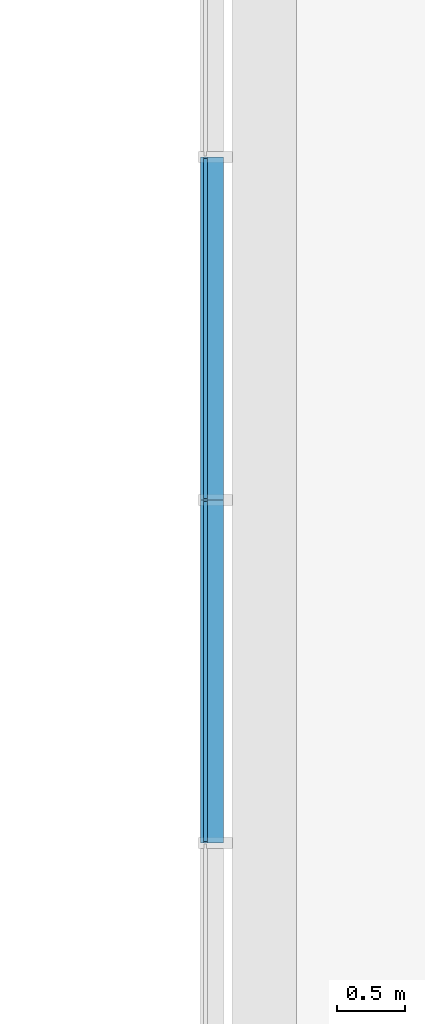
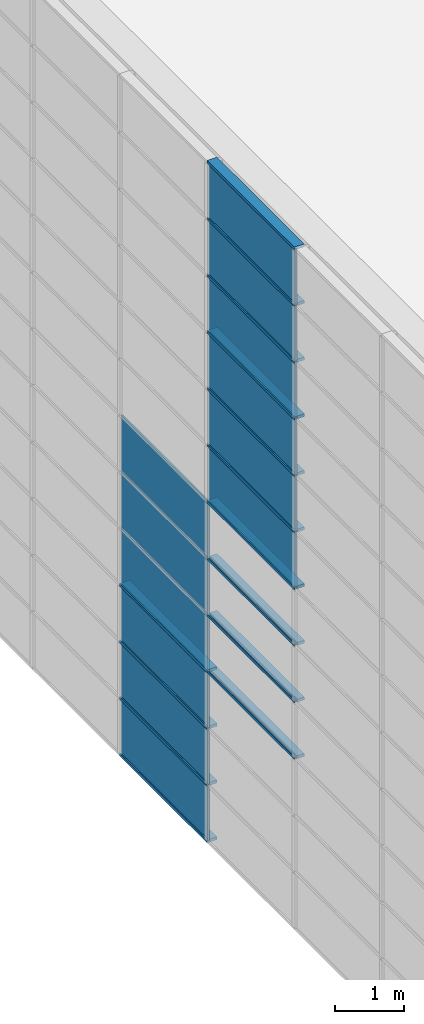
# One storey, part 14 of 105: 29 building element parts, 4 elements without a shape of their own.
"""IFC4 building model written with IfcOpenShell, lengths in millimetres."""

from ifc_helpers import new_model, entity, si_unit, converted_unit, derived_unit, direction, frame, origin_with_axes, place, context, subcontext, project, spatial, triangles, material, element, aggregate, save


model = new_model("IFC4")

# Units and contexts
model_context = context("Model", 3, precision=1e-05, world=origin_with_axes(), true_north=direction((0.0, 1.0)))
body_context = subcontext(model_context, "Body", "Model", "MODEL_VIEW")
ifc_project = project(units=[si_unit("LENGTHUNIT", "METRE", prefix="MILLI"), si_unit("AREAUNIT", "SQUARE_METRE"), si_unit("VOLUMEUNIT", "CUBIC_METRE"), converted_unit("PLANEANGLEUNIT", "DEGREE", entity("IfcLengthMeasure", 0.017453), si_unit("PLANEANGLEUNIT", "RADIAN"), dimensions=[0, 0, 0, 0, 0, 0, 0]), si_unit("SOLIDANGLEUNIT", "STERADIAN"), si_unit("MASSUNIT", "GRAM"), si_unit("TIMEUNIT", "SECOND"), si_unit("THERMODYNAMICTEMPERATUREUNIT", "DEGREE_CELSIUS"), si_unit("LUMINOUSINTENSITYUNIT", "LUMEN"), si_unit("POWERUNIT", "WATT"), derived_unit("THERMALTRANSMITTANCEUNIT", [(si_unit("POWERUNIT", "WATT"), 1), (si_unit("THERMODYNAMICTEMPERATUREUNIT", "KELVIN"), -1), (si_unit("AREAUNIT", "SQUARE_METRE"), -1)])], contexts=[model_context])

# Site, building, storey
site_placement = place(None, origin_with_axes())
site = spatial("IfcSite", under=ifc_project, at=site_placement, Name="Default Site", CompositionType="ELEMENT")
building_placement = place(site_placement, origin_with_axes())
building = spatial("IfcBuilding", under=site, at=building_placement, Name="Default Building", CompositionType="ELEMENT")
storey_placement = place(building_placement, origin_with_axes())
storey = spatial("IfcBuildingStorey", under=building, at=storey_placement, Name="OG - Story", CompositionType="ELEMENT", Elevation=0.0)

# Curtain wall, building element parts
curtain_wall_1_placement = place(storey_placement, origin_with_axes())
curtain_wall_1 = element("IfcCurtainWall", 1, at=curtain_wall_1_placement, inside=storey, Name="Fassade-003", PredefinedType="NOTDEFINED")
ifc_material_1 = material(Name="Normalglas")
building_element_part_1_placement = place(curtain_wall_1_placement, frame((31551.391327, -51326.104944, 0.0), z_axis=(0.0, 0.0, 1.0), x_axis=(1.0, 0.0, 0.0)))
building_element_part_1 = element("IfcBuildingElementPart", 2, at=building_element_part_1_placement, material=ifc_material_1, Name="Normalglas", PredefinedType="NOTDEFINED", context=body_context, shape_type="Tessellation", body=[
    triangles([(15.0, 23990.0, 995.0), (-14.999, 23990.0, 995.0), (-14.999, 21483.684, 995.0), (15.0, 21483.684, 995.0), (15.0, 23990.0, 5.0), (-14.999, 23990.0, 5.0), (-14.999, 21483.684, 5.0), (15.0, 21483.684, 5.0)], [[1, 2, 3], [1, 3, 4], [5, 6, 2], [5, 2, 1], [2, 6, 7], [2, 7, 3], [4, 3, 7], [4, 7, 8], [1, 4, 8], [1, 8, 5], [8, 7, 6], [8, 6, 5]], closed=False),
])
building_element_part_2_placement = place(curtain_wall_1_placement, frame((31551.391327, -51326.104944, 0.0), z_axis=(0.0, 0.0, 1.0), x_axis=(1.0, 0.0, 0.0)))
building_element_part_2 = element("IfcBuildingElementPart", 3, at=building_element_part_2_placement, material=ifc_material_1, Name="Normalglas", PredefinedType="NOTDEFINED", context=body_context, shape_type="Tessellation", body=[
    triangles([(15.0, 23990.0, 1995.0), (-14.999, 23990.0, 1995.0), (-14.999, 21483.684, 1995.0), (15.0, 21483.684, 1995.0), (15.0, 23990.0, 1005.0), (-14.999, 23990.0, 1005.0), (-14.999, 21483.684, 1005.0), (15.0, 21483.684, 1005.0)], [[1, 2, 3], [1, 3, 4], [5, 6, 2], [5, 2, 1], [2, 6, 7], [2, 7, 3], [4, 3, 7], [4, 7, 8], [1, 4, 8], [1, 8, 5], [8, 7, 6], [8, 6, 5]], closed=False),
])
building_element_part_3_placement = place(curtain_wall_1_placement, frame((31551.391327, -51326.104944, 0.0), z_axis=(0.0, 0.0, 1.0), x_axis=(1.0, 0.0, 0.0)))
building_element_part_3 = element("IfcBuildingElementPart", 4, at=building_element_part_3_placement, material=ifc_material_1, Name="Normalglas", PredefinedType="NOTDEFINED", context=body_context, shape_type="Tessellation", body=[
    triangles([(15.0, 23990.0, 2995.0), (-14.999, 23990.0, 2995.0), (-14.999, 21483.684, 2995.0), (15.0, 21483.684, 2995.0), (15.0, 23990.0, 2005.0), (-14.999, 23990.0, 2005.0), (-14.999, 21483.684, 2005.0), (15.0, 21483.684, 2005.0)], [[1, 2, 3], [1, 3, 4], [5, 6, 2], [5, 2, 1], [2, 6, 7], [2, 7, 3], [4, 3, 7], [4, 7, 8], [1, 4, 8], [1, 8, 5], [8, 7, 6], [8, 6, 5]], closed=False),
])
ifc_material_2 = material(Name="Blech")
building_element_part_4_placement = place(curtain_wall_1_placement, frame((31551.391327, -51326.104944, 0.0), z_axis=(0.0, 0.0, 1.0), x_axis=(1.0, 0.0, 0.0)))
building_element_part_4 = element("IfcBuildingElementPart", 5, at=building_element_part_4_placement, material=ifc_material_2, Name="Blech", PredefinedType="NOTDEFINED", context=body_context, shape_type="Tessellation", body=[
    triangles([(15.0, 24000.0, 25.0), (133.0, 24000.0, 25.0), (15.0, 24000.0, 5.0), (133.0, 24000.0, -24.999), (-14.999, 24000.0, 5.0), (-34.999, 24000.0, -24.999), (-34.999, 24000.0, 25.0), (-14.999, 24000.0, 25.0), (15.0, 21473.684, 5.0), (15.0, 21473.684, 25.0), (133.0, 21473.684, 25.0), (133.0, 21473.684, -24.999), (-34.999, 21473.684, -24.999), (-34.999, 21473.684, 25.0), (-14.999, 21473.684, 25.0), (-14.999, 21473.684, 5.0)], [[1, 2, 3], [3, 2, 4], [3, 4, 5], [5, 4, 6], [5, 6, 7], [5, 7, 8], [3, 9, 10], [3, 10, 1], [10, 11, 2], [10, 2, 1], [11, 12, 4], [11, 4, 2], [12, 13, 6], [12, 6, 4], [13, 14, 7], [13, 7, 6], [8, 7, 14], [8, 14, 15], [15, 16, 5], [15, 5, 8], [5, 16, 9], [5, 9, 3], [16, 9, 12], [16, 12, 13], [16, 13, 14], [16, 14, 15], [11, 12, 9], [11, 9, 10]], closed=False),
])
building_element_part_5_placement = place(curtain_wall_1_placement, frame((31551.391327, -51326.104944, 0.0), z_axis=(0.0, 0.0, 1.0), x_axis=(1.0, 0.0, 0.0)))
building_element_part_5 = element("IfcBuildingElementPart", 6, at=building_element_part_5_placement, material=ifc_material_2, Name="Blech", PredefinedType="NOTDEFINED", context=body_context, shape_type="Tessellation", body=[
    triangles([(-14.999, 24000.0, 1025.0), (-34.999, 24000.0, 1025.0), (-14.999, 24000.0, 1005.0), (-14.999, 24000.0, 995.0), (15.0, 24000.0, 1005.0), (133.0, 24000.0, 1025.0), (15.0, 24000.0, 1025.0), (-34.999, 24000.0, 975.0), (-14.999, 24000.0, 975.0), (15.0, 24000.0, 995.0), (15.0, 24000.0, 975.0), (133.0, 24000.0, 975.0), (15.0, 21473.684, 995.0), (-14.999, 21473.684, 995.0), (-14.999, 21473.684, 975.0), (-34.999, 21473.684, 975.0), (-34.999, 21473.684, 1025.0), (-14.999, 21473.684, 1025.0), (-14.999, 21473.684, 1005.0), (15.0, 21473.684, 1005.0), (15.0, 21473.684, 1025.0), (133.0, 21473.684, 1025.0), (133.0, 21473.684, 975.0), (15.0, 21473.684, 975.0)], [[1, 2, 3], [3, 2, 4], [3, 4, 5], [5, 4, 6], [5, 6, 7], [8, 9, 4], [8, 4, 2], [6, 4, 10], [6, 10, 11], [6, 11, 12], [10, 13, 14], [10, 14, 4], [4, 14, 15], [4, 15, 9], [15, 16, 8], [15, 8, 9], [8, 16, 17], [8, 17, 2], [18, 1, 2], [18, 2, 17], [1, 18, 19], [1, 19, 3], [5, 3, 19], [5, 19, 20], [7, 5, 20], [7, 20, 21], [7, 21, 22], [7, 22, 6], [6, 22, 23], [6, 23, 12], [11, 12, 23], [11, 23, 24], [11, 24, 13], [11, 13, 10], [21, 22, 20], [20, 22, 13], [20, 13, 19], [19, 13, 14], [19, 14, 17], [17, 14, 15], [17, 15, 16], [23, 24, 13], [23, 13, 22], [19, 17, 18]], closed=False),
])
building_element_part_6_placement = place(curtain_wall_1_placement, frame((31551.391327, -51326.104944, 0.0), z_axis=(0.0, 0.0, 1.0), x_axis=(1.0, 0.0, 0.0)))
building_element_part_6 = element("IfcBuildingElementPart", 7, at=building_element_part_6_placement, material=ifc_material_2, Name="Blech", PredefinedType="NOTDEFINED", context=body_context, shape_type="Tessellation", body=[
    triangles([(-14.999, 24000.0, 2025.0), (-34.999, 24000.0, 2025.0), (-14.999, 24000.0, 2005.0), (-14.999, 24000.0, 1995.0), (15.0, 24000.0, 2005.0), (133.0, 24000.0, 2025.0), (15.0, 24000.0, 2025.0), (-34.999, 24000.0, 1975.0), (-14.999, 24000.0, 1975.0), (15.0, 24000.0, 1995.0), (15.0, 24000.0, 1975.0), (133.0, 24000.0, 1975.0), (15.0, 21473.684, 1995.0), (-14.999, 21473.684, 1995.0), (-14.999, 21473.684, 1975.0), (-34.999, 21473.684, 1975.0), (-34.999, 21473.684, 2025.0), (-14.999, 21473.684, 2025.0), (-14.999, 21473.684, 2005.0), (15.0, 21473.684, 2005.0), (15.0, 21473.684, 2025.0), (133.0, 21473.684, 2025.0), (133.0, 21473.684, 1975.0), (15.0, 21473.684, 1975.0)], [[1, 2, 3], [3, 2, 4], [3, 4, 5], [5, 4, 6], [5, 6, 7], [8, 9, 4], [8, 4, 2], [6, 4, 10], [6, 10, 11], [6, 11, 12], [10, 13, 14], [10, 14, 4], [4, 14, 15], [4, 15, 9], [15, 16, 8], [15, 8, 9], [8, 16, 17], [8, 17, 2], [18, 1, 2], [18, 2, 17], [1, 18, 19], [1, 19, 3], [5, 3, 19], [5, 19, 20], [7, 5, 20], [7, 20, 21], [7, 21, 22], [7, 22, 6], [6, 22, 23], [6, 23, 12], [11, 12, 23], [11, 23, 24], [11, 24, 13], [11, 13, 10], [21, 22, 20], [20, 22, 13], [20, 13, 19], [19, 13, 14], [19, 14, 17], [17, 14, 15], [17, 15, 16], [23, 24, 13], [23, 13, 22], [19, 17, 18]], closed=False),
])
building_element_part_7_placement = place(curtain_wall_1_placement, frame((31551.391327, -51326.104944, 0.0), z_axis=(0.0, 0.0, 1.0), x_axis=(1.0, 0.0, 0.0)))
building_element_part_7 = element("IfcBuildingElementPart", 8, at=building_element_part_7_placement, material=ifc_material_2, Name="Blech", PredefinedType="NOTDEFINED", context=body_context, shape_type="Tessellation", body=[
    triangles([(-14.999, 24000.0, 2995.0), (15.0, 24000.0, 2995.0), (133.0, 24000.0, 3025.0), (-34.999, 24000.0, 3025.0), (-34.999, 24000.0, 2975.0), (-14.999, 24000.0, 2975.0), (15.0, 24000.0, 2975.0), (133.0, 24000.0, 2975.0), (15.0, 21473.684, 2995.0), (-14.999, 21473.684, 2995.0), (-14.999, 21473.684, 2975.0), (-34.999, 21473.684, 2975.0), (-34.999, 21473.684, 3025.0), (133.0, 21473.684, 3025.0), (133.0, 21473.684, 2975.0), (15.0, 21473.684, 2975.0)], [[1, 2, 3], [1, 3, 4], [1, 4, 5], [1, 5, 6], [7, 8, 3], [7, 3, 2], [1, 2, 9], [1, 9, 10], [11, 6, 1], [11, 1, 10], [6, 11, 12], [6, 12, 5], [13, 4, 5], [13, 5, 12], [14, 3, 4], [14, 4, 13], [15, 8, 3], [15, 3, 14], [16, 7, 8], [16, 8, 15], [2, 7, 16], [2, 16, 9], [10, 9, 14], [10, 14, 13], [10, 13, 12], [10, 12, 11], [16, 15, 14], [16, 14, 9]], closed=False),
])
aggregate(curtain_wall_1, [building_element_part_1, building_element_part_2, building_element_part_3, building_element_part_4, building_element_part_5, building_element_part_6, building_element_part_7])

curtain_wall_2_placement = place(storey_placement, origin_with_axes())
curtain_wall_2 = element("IfcCurtainWall", 9, at=curtain_wall_2_placement, inside=storey, Name="Fassade-003", PredefinedType="NOTDEFINED")
building_element_part_8_placement = place(curtain_wall_2_placement, frame((31551.391327, -51326.104944, 3000.0), z_axis=(0.0, 0.0, 1.0), x_axis=(1.0, 0.0, 0.0)))
building_element_part_8 = element("IfcBuildingElementPart", 10, at=building_element_part_8_placement, material=ifc_material_1, Name="Normalglas", PredefinedType="NOTDEFINED", context=body_context, shape_type="Tessellation", body=[
    triangles([(15.0, 23990.0, 995.0), (-14.999, 23990.0, 995.0), (-14.999, 21483.684, 995.0), (15.0, 21483.684, 995.0), (15.0, 23990.0, 5.0), (-14.999, 23990.0, 5.0), (-14.999, 21483.684, 5.0), (15.0, 21483.684, 5.0)], [[1, 2, 3], [1, 3, 4], [5, 6, 2], [5, 2, 1], [2, 6, 7], [2, 7, 3], [4, 3, 7], [4, 7, 8], [1, 4, 8], [1, 8, 5], [8, 7, 6], [8, 6, 5]], closed=False),
])
building_element_part_9_placement = place(curtain_wall_2_placement, frame((31551.391327, -51326.104944, 3000.0), z_axis=(0.0, 0.0, 1.0), x_axis=(1.0, 0.0, 0.0)))
building_element_part_9 = element("IfcBuildingElementPart", 11, at=building_element_part_9_placement, material=ifc_material_1, Name="Normalglas", PredefinedType="NOTDEFINED", context=body_context, shape_type="Tessellation", body=[
    triangles([(15.0, 23990.0, 1995.0), (-14.999, 23990.0, 1995.0), (-14.999, 21483.684, 1995.0), (15.0, 21483.684, 1995.0), (15.0, 23990.0, 1005.0), (-14.999, 23990.0, 1005.0), (-14.999, 21483.684, 1005.0), (15.0, 21483.684, 1005.0)], [[1, 2, 3], [1, 3, 4], [5, 6, 2], [5, 2, 1], [2, 6, 7], [2, 7, 3], [4, 3, 7], [4, 7, 8], [1, 4, 8], [1, 8, 5], [8, 7, 6], [8, 6, 5]], closed=False),
])
building_element_part_10_placement = place(curtain_wall_2_placement, frame((31551.391327, -51326.104944, 3000.0), z_axis=(0.0, 0.0, 1.0), x_axis=(1.0, 0.0, 0.0)))
building_element_part_10 = element("IfcBuildingElementPart", 12, at=building_element_part_10_placement, material=ifc_material_1, Name="Normalglas", PredefinedType="NOTDEFINED", context=body_context, shape_type="Tessellation", body=[
    triangles([(15.0, 23990.0, 2995.0), (-14.999, 23990.0, 2995.0), (-14.999, 21483.684, 2995.0), (15.0, 21483.684, 2995.0), (15.0, 23990.0, 2005.0), (-14.999, 23990.0, 2005.0), (-14.999, 21483.684, 2005.0), (15.0, 21483.684, 2005.0)], [[1, 2, 3], [1, 3, 4], [5, 6, 2], [5, 2, 1], [2, 6, 7], [2, 7, 3], [4, 3, 7], [4, 7, 8], [1, 4, 8], [1, 8, 5], [8, 7, 6], [8, 6, 5]], closed=False),
])
building_element_part_11_placement = place(curtain_wall_2_placement, frame((31551.391327, -51326.104944, 3000.0), z_axis=(0.0, 0.0, 1.0), x_axis=(1.0, 0.0, 0.0)))
building_element_part_11 = element("IfcBuildingElementPart", 13, at=building_element_part_11_placement, material=ifc_material_2, Name="Blech", PredefinedType="NOTDEFINED", context=body_context, shape_type="Tessellation", body=[
    triangles([(15.0, 21473.684, 25.0), (133.0, 21473.684, 25.0), (15.0, 21473.684, 5.0), (133.0, 21473.684, -24.999), (-14.999, 21473.684, 5.0), (-34.999, 21473.684, -24.999), (-34.999, 21473.684, 25.0), (-14.999, 21473.684, 25.0), (15.0, 18947.368, 5.0), (15.0, 18947.368, 25.0), (133.0, 18947.368, 25.0), (133.0, 18947.368, -24.999), (-34.999, 18947.368, -24.999), (-34.999, 18947.368, 25.0), (-14.999, 18947.368, 25.0), (-14.999, 18947.368, 5.0)], [[1, 2, 3], [3, 2, 4], [3, 4, 5], [5, 4, 6], [5, 6, 7], [5, 7, 8], [3, 9, 10], [3, 10, 1], [10, 11, 2], [10, 2, 1], [11, 12, 4], [11, 4, 2], [12, 13, 6], [12, 6, 4], [13, 14, 7], [13, 7, 6], [8, 7, 14], [8, 14, 15], [15, 16, 5], [15, 5, 8], [5, 16, 9], [5, 9, 3], [16, 9, 12], [16, 12, 13], [16, 13, 14], [16, 14, 15], [11, 12, 9], [11, 9, 10]], closed=False),
])
building_element_part_12_placement = place(curtain_wall_2_placement, frame((31551.391327, -51326.104944, 3000.0), z_axis=(0.0, 0.0, 1.0), x_axis=(1.0, 0.0, 0.0)))
building_element_part_12 = element("IfcBuildingElementPart", 14, at=building_element_part_12_placement, material=ifc_material_2, Name="Blech", PredefinedType="NOTDEFINED", context=body_context, shape_type="Tessellation", body=[
    triangles([(15.0, 24000.0, 25.0), (133.0, 24000.0, 25.0), (15.0, 24000.0, 5.0), (133.0, 24000.0, -24.999), (-14.999, 24000.0, 5.0), (-34.999, 24000.0, -24.999), (-34.999, 24000.0, 25.0), (-14.999, 24000.0, 25.0), (15.0, 21473.684, 5.0), (15.0, 21473.684, 25.0), (133.0, 21473.684, 25.0), (133.0, 21473.684, -24.999), (-34.999, 21473.684, -24.999), (-34.999, 21473.684, 25.0), (-14.999, 21473.684, 25.0), (-14.999, 21473.684, 5.0)], [[1, 2, 3], [3, 2, 4], [3, 4, 5], [5, 4, 6], [5, 6, 7], [5, 7, 8], [3, 9, 10], [3, 10, 1], [10, 11, 2], [10, 2, 1], [11, 12, 4], [11, 4, 2], [12, 13, 6], [12, 6, 4], [13, 14, 7], [13, 7, 6], [8, 7, 14], [8, 14, 15], [15, 16, 5], [15, 5, 8], [5, 16, 9], [5, 9, 3], [16, 9, 12], [16, 12, 13], [16, 13, 14], [16, 14, 15], [11, 12, 9], [11, 9, 10]], closed=False),
])
building_element_part_13_placement = place(curtain_wall_2_placement, frame((31551.391327, -51326.104944, 3000.0), z_axis=(0.0, 0.0, 1.0), x_axis=(1.0, 0.0, 0.0)))
building_element_part_13 = element("IfcBuildingElementPart", 15, at=building_element_part_13_placement, material=ifc_material_2, Name="Blech", PredefinedType="NOTDEFINED", context=body_context, shape_type="Tessellation", body=[
    triangles([(-14.999, 21473.684, 1025.0), (-34.999, 21473.684, 1025.0), (-14.999, 21473.684, 1005.0), (-14.999, 21473.684, 995.0), (15.0, 21473.684, 1005.0), (133.0, 21473.684, 1025.0), (15.0, 21473.684, 1025.0), (-34.999, 21473.684, 975.0), (-14.999, 21473.684, 975.0), (15.0, 21473.684, 995.0), (15.0, 21473.684, 975.0), (133.0, 21473.684, 975.0), (15.0, 18947.368, 995.0), (-14.999, 18947.368, 995.0), (-14.999, 18947.368, 975.0), (-34.999, 18947.368, 975.0), (-34.999, 18947.368, 1025.0), (-14.999, 18947.368, 1025.0), (-14.999, 18947.368, 1005.0), (15.0, 18947.368, 1005.0), (15.0, 18947.368, 1025.0), (133.0, 18947.368, 1025.0), (133.0, 18947.368, 975.0), (15.0, 18947.368, 975.0)], [[1, 2, 3], [3, 2, 4], [3, 4, 5], [5, 4, 6], [5, 6, 7], [8, 9, 4], [8, 4, 2], [6, 4, 10], [6, 10, 11], [6, 11, 12], [10, 13, 14], [10, 14, 4], [4, 14, 15], [4, 15, 9], [15, 16, 8], [15, 8, 9], [8, 16, 17], [8, 17, 2], [18, 1, 2], [18, 2, 17], [1, 18, 19], [1, 19, 3], [5, 3, 19], [5, 19, 20], [7, 5, 20], [7, 20, 21], [7, 21, 22], [7, 22, 6], [6, 22, 23], [6, 23, 12], [11, 12, 23], [11, 23, 24], [11, 24, 13], [11, 13, 10], [21, 22, 20], [20, 22, 13], [20, 13, 19], [19, 13, 14], [19, 14, 17], [17, 14, 15], [17, 15, 16], [23, 24, 13], [23, 13, 22], [19, 17, 18]], closed=False),
])
building_element_part_14_placement = place(curtain_wall_2_placement, frame((31551.391327, -51326.104944, 3000.0), z_axis=(0.0, 0.0, 1.0), x_axis=(1.0, 0.0, 0.0)))
building_element_part_14 = element("IfcBuildingElementPart", 16, at=building_element_part_14_placement, material=ifc_material_2, Name="Blech", PredefinedType="NOTDEFINED", context=body_context, shape_type="Tessellation", body=[
    triangles([(-14.999, 21473.684, 2025.0), (-34.999, 21473.684, 2025.0), (-14.999, 21473.684, 2005.0), (-14.999, 21473.684, 1995.0), (15.0, 21473.684, 2005.0), (133.0, 21473.684, 2025.0), (15.0, 21473.684, 2025.0), (-34.999, 21473.684, 1975.0), (-14.999, 21473.684, 1975.0), (15.0, 21473.684, 1995.0), (15.0, 21473.684, 1975.0), (133.0, 21473.684, 1975.0), (15.0, 18947.368, 1995.0), (-14.999, 18947.368, 1995.0), (-14.999, 18947.368, 1975.0), (-34.999, 18947.368, 1975.0), (-34.999, 18947.368, 2025.0), (-14.999, 18947.368, 2025.0), (-14.999, 18947.368, 2005.0), (15.0, 18947.368, 2005.0), (15.0, 18947.368, 2025.0), (133.0, 18947.368, 2025.0), (133.0, 18947.368, 1975.0), (15.0, 18947.368, 1975.0)], [[1, 2, 3], [3, 2, 4], [3, 4, 5], [5, 4, 6], [5, 6, 7], [8, 9, 4], [8, 4, 2], [6, 4, 10], [6, 10, 11], [6, 11, 12], [10, 13, 14], [10, 14, 4], [4, 14, 15], [4, 15, 9], [15, 16, 8], [15, 8, 9], [8, 16, 17], [8, 17, 2], [18, 1, 2], [18, 2, 17], [1, 18, 19], [1, 19, 3], [5, 3, 19], [5, 19, 20], [7, 5, 20], [7, 20, 21], [7, 21, 22], [7, 22, 6], [6, 22, 23], [6, 23, 12], [11, 12, 23], [11, 23, 24], [11, 24, 13], [11, 13, 10], [21, 22, 20], [20, 22, 13], [20, 13, 19], [19, 13, 14], [19, 14, 17], [17, 14, 15], [17, 15, 16], [23, 24, 13], [23, 13, 22], [19, 17, 18]], closed=False),
])
building_element_part_15_placement = place(curtain_wall_2_placement, frame((31551.391327, -51326.104944, 3000.0), z_axis=(0.0, 0.0, 1.0), x_axis=(1.0, 0.0, 0.0)))
building_element_part_15 = element("IfcBuildingElementPart", 17, at=building_element_part_15_placement, material=ifc_material_2, Name="Blech", PredefinedType="NOTDEFINED", context=body_context, shape_type="Tessellation", body=[
    triangles([(-14.999, 21473.684, 2995.0), (15.0, 21473.684, 2995.0), (133.0, 21473.684, 3025.0), (-34.999, 21473.684, 3025.0), (-34.999, 21473.684, 2975.0), (-14.999, 21473.684, 2975.0), (15.0, 21473.684, 2975.0), (133.0, 21473.684, 2975.0), (15.0, 18947.368, 2995.0), (-14.999, 18947.368, 2995.0), (-14.999, 18947.368, 2975.0), (-34.999, 18947.368, 2975.0), (-34.999, 18947.368, 3025.0), (133.0, 18947.368, 3025.0), (133.0, 18947.368, 2975.0), (15.0, 18947.368, 2975.0)], [[1, 2, 3], [1, 3, 4], [1, 4, 5], [1, 5, 6], [7, 8, 3], [7, 3, 2], [1, 2, 9], [1, 9, 10], [11, 6, 1], [11, 1, 10], [6, 11, 12], [6, 12, 5], [13, 4, 5], [13, 5, 12], [14, 3, 4], [14, 4, 13], [15, 8, 3], [15, 3, 14], [16, 7, 8], [16, 8, 15], [2, 7, 16], [2, 16, 9], [10, 9, 14], [10, 14, 13], [10, 13, 12], [10, 12, 11], [16, 15, 14], [16, 14, 9]], closed=False),
])
aggregate(curtain_wall_2, [building_element_part_8, building_element_part_9, building_element_part_10, building_element_part_11, building_element_part_12, building_element_part_13, building_element_part_14, building_element_part_15])

curtain_wall_3_placement = place(storey_placement, origin_with_axes())
curtain_wall_3 = element("IfcCurtainWall", 18, at=curtain_wall_3_placement, inside=storey, Name="Fassade-003", PredefinedType="NOTDEFINED")
building_element_part_16_placement = place(curtain_wall_3_placement, frame((31551.391327, -51326.104944, 6000.0), z_axis=(0.0, 0.0, 1.0), x_axis=(1.0, 0.0, 0.0)))
building_element_part_16 = element("IfcBuildingElementPart", 19, at=building_element_part_16_placement, material=ifc_material_1, Name="Normalglas", PredefinedType="NOTDEFINED", context=body_context, shape_type="Tessellation", body=[
    triangles([(15.0, 21463.684, 995.0), (-14.999, 21463.684, 995.0), (-14.999, 18957.368, 995.0), (15.0, 18957.368, 995.0), (15.0, 21463.684, 5.0), (-14.999, 21463.684, 5.0), (-14.999, 18957.368, 5.0), (15.0, 18957.368, 5.0)], [[1, 2, 3], [1, 3, 4], [5, 6, 2], [5, 2, 1], [2, 6, 7], [2, 7, 3], [4, 3, 7], [4, 7, 8], [1, 4, 8], [1, 8, 5], [8, 7, 6], [8, 6, 5]], closed=False),
])
building_element_part_17_placement = place(curtain_wall_3_placement, frame((31551.391327, -51326.104944, 6000.0), z_axis=(0.0, 0.0, 1.0), x_axis=(1.0, 0.0, 0.0)))
building_element_part_17 = element("IfcBuildingElementPart", 20, at=building_element_part_17_placement, material=ifc_material_1, Name="Normalglas", PredefinedType="NOTDEFINED", context=body_context, shape_type="Tessellation", body=[
    triangles([(15.0, 21463.684, 1995.0), (-14.999, 21463.684, 1995.0), (-14.999, 18957.368, 1995.0), (15.0, 18957.368, 1995.0), (15.0, 21463.684, 1005.0), (-14.999, 21463.684, 1005.0), (-14.999, 18957.368, 1005.0), (15.0, 18957.368, 1005.0)], [[1, 2, 3], [1, 3, 4], [5, 6, 2], [5, 2, 1], [2, 6, 7], [2, 7, 3], [4, 3, 7], [4, 7, 8], [1, 4, 8], [1, 8, 5], [8, 7, 6], [8, 6, 5]], closed=False),
])
building_element_part_18_placement = place(curtain_wall_3_placement, frame((31551.391327, -51326.104944, 6000.0), z_axis=(0.0, 0.0, 1.0), x_axis=(1.0, 0.0, 0.0)))
building_element_part_18 = element("IfcBuildingElementPart", 21, at=building_element_part_18_placement, material=ifc_material_1, Name="Normalglas", PredefinedType="NOTDEFINED", context=body_context, shape_type="Tessellation", body=[
    triangles([(15.0, 21463.684, 2995.0), (-14.999, 21463.684, 2995.0), (-14.999, 18957.368, 2995.0), (15.0, 18957.368, 2995.0), (15.0, 21463.684, 2005.0), (-14.999, 21463.684, 2005.0), (-14.999, 18957.368, 2005.0), (15.0, 18957.368, 2005.0)], [[1, 2, 3], [1, 3, 4], [5, 6, 2], [5, 2, 1], [2, 6, 7], [2, 7, 3], [4, 3, 7], [4, 7, 8], [1, 4, 8], [1, 8, 5], [8, 7, 6], [8, 6, 5]], closed=False),
])
building_element_part_19_placement = place(curtain_wall_3_placement, frame((31551.391327, -51326.104944, 6000.0), z_axis=(0.0, 0.0, 1.0), x_axis=(1.0, 0.0, 0.0)))
building_element_part_19 = element("IfcBuildingElementPart", 22, at=building_element_part_19_placement, material=ifc_material_2, Name="Blech", PredefinedType="NOTDEFINED", context=body_context, shape_type="Tessellation", body=[
    triangles([(15.0, 21473.684, 25.0), (133.0, 21473.684, 25.0), (15.0, 21473.684, 5.0), (133.0, 21473.684, -24.999), (-14.999, 21473.684, 5.0), (-34.999, 21473.684, -24.999), (-34.999, 21473.684, 25.0), (-14.999, 21473.684, 25.0), (15.0, 18947.368, 5.0), (15.0, 18947.368, 25.0), (133.0, 18947.368, 25.0), (133.0, 18947.368, -24.999), (-34.999, 18947.368, -24.999), (-34.999, 18947.368, 25.0), (-14.999, 18947.368, 25.0), (-14.999, 18947.368, 5.0)], [[1, 2, 3], [3, 2, 4], [3, 4, 5], [5, 4, 6], [5, 6, 7], [5, 7, 8], [3, 9, 10], [3, 10, 1], [10, 11, 2], [10, 2, 1], [11, 12, 4], [11, 4, 2], [12, 13, 6], [12, 6, 4], [13, 14, 7], [13, 7, 6], [8, 7, 14], [8, 14, 15], [15, 16, 5], [15, 5, 8], [5, 16, 9], [5, 9, 3], [16, 9, 12], [16, 12, 13], [16, 13, 14], [16, 14, 15], [11, 12, 9], [11, 9, 10]], closed=False),
])
building_element_part_20_placement = place(curtain_wall_3_placement, frame((31551.391327, -51326.104944, 6000.0), z_axis=(0.0, 0.0, 1.0), x_axis=(1.0, 0.0, 0.0)))
building_element_part_20 = element("IfcBuildingElementPart", 23, at=building_element_part_20_placement, material=ifc_material_2, Name="Blech", PredefinedType="NOTDEFINED", context=body_context, shape_type="Tessellation", body=[
    triangles([(-14.999, 21473.684, 1025.0), (-34.999, 21473.684, 1025.0), (-14.999, 21473.684, 1005.0), (-14.999, 21473.684, 995.0), (15.0, 21473.684, 1005.0), (133.0, 21473.684, 1025.0), (15.0, 21473.684, 1025.0), (-34.999, 21473.684, 975.0), (-14.999, 21473.684, 975.0), (15.0, 21473.684, 995.0), (15.0, 21473.684, 975.0), (133.0, 21473.684, 975.0), (15.0, 18947.368, 995.0), (-14.999, 18947.368, 995.0), (-14.999, 18947.368, 975.0), (-34.999, 18947.368, 975.0), (-34.999, 18947.368, 1025.0), (-14.999, 18947.368, 1025.0), (-14.999, 18947.368, 1005.0), (15.0, 18947.368, 1005.0), (15.0, 18947.368, 1025.0), (133.0, 18947.368, 1025.0), (133.0, 18947.368, 975.0), (15.0, 18947.368, 975.0)], [[1, 2, 3], [3, 2, 4], [3, 4, 5], [5, 4, 6], [5, 6, 7], [8, 9, 4], [8, 4, 2], [6, 4, 10], [6, 10, 11], [6, 11, 12], [10, 13, 14], [10, 14, 4], [4, 14, 15], [4, 15, 9], [15, 16, 8], [15, 8, 9], [8, 16, 17], [8, 17, 2], [18, 1, 2], [18, 2, 17], [1, 18, 19], [1, 19, 3], [5, 3, 19], [5, 19, 20], [7, 5, 20], [7, 20, 21], [7, 21, 22], [7, 22, 6], [6, 22, 23], [6, 23, 12], [11, 12, 23], [11, 23, 24], [11, 24, 13], [11, 13, 10], [21, 22, 20], [20, 22, 13], [20, 13, 19], [19, 13, 14], [19, 14, 17], [17, 14, 15], [17, 15, 16], [23, 24, 13], [23, 13, 22], [19, 17, 18]], closed=False),
])
building_element_part_21_placement = place(curtain_wall_3_placement, frame((31551.391327, -51326.104944, 6000.0), z_axis=(0.0, 0.0, 1.0), x_axis=(1.0, 0.0, 0.0)))
building_element_part_21 = element("IfcBuildingElementPart", 24, at=building_element_part_21_placement, material=ifc_material_2, Name="Blech", PredefinedType="NOTDEFINED", context=body_context, shape_type="Tessellation", body=[
    triangles([(-14.999, 21473.684, 2025.0), (-34.999, 21473.684, 2025.0), (-14.999, 21473.684, 2005.0), (-14.999, 21473.684, 1995.0), (15.0, 21473.684, 2005.0), (133.0, 21473.684, 2025.0), (15.0, 21473.684, 2025.0), (-34.999, 21473.684, 1975.0), (-14.999, 21473.684, 1975.0), (15.0, 21473.684, 1995.0), (15.0, 21473.684, 1975.0), (133.0, 21473.684, 1975.0), (15.0, 18947.368, 1995.0), (-14.999, 18947.368, 1995.0), (-14.999, 18947.368, 1975.0), (-34.999, 18947.368, 1975.0), (-34.999, 18947.368, 2025.0), (-14.999, 18947.368, 2025.0), (-14.999, 18947.368, 2005.0), (15.0, 18947.368, 2005.0), (15.0, 18947.368, 2025.0), (133.0, 18947.368, 2025.0), (133.0, 18947.368, 1975.0), (15.0, 18947.368, 1975.0)], [[1, 2, 3], [3, 2, 4], [3, 4, 5], [5, 4, 6], [5, 6, 7], [8, 9, 4], [8, 4, 2], [6, 4, 10], [6, 10, 11], [6, 11, 12], [10, 13, 14], [10, 14, 4], [4, 14, 15], [4, 15, 9], [15, 16, 8], [15, 8, 9], [8, 16, 17], [8, 17, 2], [18, 1, 2], [18, 2, 17], [1, 18, 19], [1, 19, 3], [5, 3, 19], [5, 19, 20], [7, 5, 20], [7, 20, 21], [7, 21, 22], [7, 22, 6], [6, 22, 23], [6, 23, 12], [11, 12, 23], [11, 23, 24], [11, 24, 13], [11, 13, 10], [21, 22, 20], [20, 22, 13], [20, 13, 19], [19, 13, 14], [19, 14, 17], [17, 14, 15], [17, 15, 16], [23, 24, 13], [23, 13, 22], [19, 17, 18]], closed=False),
])
building_element_part_22_placement = place(curtain_wall_3_placement, frame((31551.391327, -51326.104944, 6000.0), z_axis=(0.0, 0.0, 1.0), x_axis=(1.0, 0.0, 0.0)))
building_element_part_22 = element("IfcBuildingElementPart", 25, at=building_element_part_22_placement, material=ifc_material_2, Name="Blech", PredefinedType="NOTDEFINED", context=body_context, shape_type="Tessellation", body=[
    triangles([(-14.999, 21473.684, 2995.0), (15.0, 21473.684, 2995.0), (133.0, 21473.684, 3025.0), (-34.999, 21473.684, 3025.0), (-34.999, 21473.684, 2975.0), (-14.999, 21473.684, 2975.0), (15.0, 21473.684, 2975.0), (133.0, 21473.684, 2975.0), (15.0, 18947.368, 2995.0), (-14.999, 18947.368, 2995.0), (-14.999, 18947.368, 2975.0), (-34.999, 18947.368, 2975.0), (-34.999, 18947.368, 3025.0), (133.0, 18947.368, 3025.0), (133.0, 18947.368, 2975.0), (15.0, 18947.368, 2975.0)], [[1, 2, 3], [1, 3, 4], [1, 4, 5], [1, 5, 6], [7, 8, 3], [7, 3, 2], [1, 2, 9], [1, 9, 10], [11, 6, 1], [11, 1, 10], [6, 11, 12], [6, 12, 5], [13, 4, 5], [13, 5, 12], [14, 3, 4], [14, 4, 13], [15, 8, 3], [15, 3, 14], [16, 7, 8], [16, 8, 15], [2, 7, 16], [2, 16, 9], [10, 9, 14], [10, 14, 13], [10, 13, 12], [10, 12, 11], [16, 15, 14], [16, 14, 9]], closed=False),
])
aggregate(curtain_wall_3, [building_element_part_16, building_element_part_17, building_element_part_18, building_element_part_19, building_element_part_20, building_element_part_21, building_element_part_22])

curtain_wall_4_placement = place(storey_placement, origin_with_axes())
curtain_wall_4 = element("IfcCurtainWall", 26, at=curtain_wall_4_placement, inside=storey, Name="Fassade-003", PredefinedType="NOTDEFINED")
building_element_part_23_placement = place(curtain_wall_4_placement, frame((31551.391327, -51326.104944, 9000.0), z_axis=(0.0, 0.0, 1.0), x_axis=(1.0, 0.0, 0.0)))
building_element_part_23 = element("IfcBuildingElementPart", 27, at=building_element_part_23_placement, material=ifc_material_1, Name="Normalglas", PredefinedType="NOTDEFINED", context=body_context, shape_type="Tessellation", body=[
    triangles([(15.0, 21463.684, 995.0), (-14.999, 21463.684, 995.0), (-14.999, 18957.368, 995.0), (15.0, 18957.368, 995.0), (15.0, 21463.684, 5.0), (-14.999, 21463.684, 5.0), (-14.999, 18957.368, 5.0), (15.0, 18957.368, 5.0)], [[1, 2, 3], [1, 3, 4], [5, 6, 2], [5, 2, 1], [2, 6, 7], [2, 7, 3], [4, 3, 7], [4, 7, 8], [1, 4, 8], [1, 8, 5], [8, 7, 6], [8, 6, 5]], closed=False),
])
building_element_part_24_placement = place(curtain_wall_4_placement, frame((31551.391327, -51326.104944, 9000.0), z_axis=(0.0, 0.0, 1.0), x_axis=(1.0, 0.0, 0.0)))
building_element_part_24 = element("IfcBuildingElementPart", 28, at=building_element_part_24_placement, material=ifc_material_1, Name="Normalglas", PredefinedType="NOTDEFINED", context=body_context, shape_type="Tessellation", body=[
    triangles([(15.0, 21463.684, 1995.0), (-14.999, 21463.684, 1995.0), (-14.999, 18957.368, 1995.0), (15.0, 18957.368, 1995.0), (15.0, 21463.684, 1005.0), (-14.999, 21463.684, 1005.0), (-14.999, 18957.368, 1005.0), (15.0, 18957.368, 1005.0)], [[1, 2, 3], [1, 3, 4], [5, 6, 2], [5, 2, 1], [2, 6, 7], [2, 7, 3], [4, 3, 7], [4, 7, 8], [1, 4, 8], [1, 8, 5], [8, 7, 6], [8, 6, 5]], closed=False),
])
building_element_part_25_placement = place(curtain_wall_4_placement, frame((31551.391327, -51326.104944, 9000.0), z_axis=(0.0, 0.0, 1.0), x_axis=(1.0, 0.0, 0.0)))
building_element_part_25 = element("IfcBuildingElementPart", 29, at=building_element_part_25_placement, material=ifc_material_1, Name="Normalglas", PredefinedType="NOTDEFINED", context=body_context, shape_type="Tessellation", body=[
    triangles([(15.0, 21463.684, 2995.0), (-14.999, 21463.684, 2995.0), (-14.999, 18957.368, 2995.0), (15.0, 18957.368, 2995.0), (15.0, 21463.684, 2005.0), (-14.999, 21463.684, 2005.0), (-14.999, 18957.368, 2005.0), (15.0, 18957.368, 2005.0)], [[1, 2, 3], [1, 3, 4], [5, 6, 2], [5, 2, 1], [2, 6, 7], [2, 7, 3], [4, 3, 7], [4, 7, 8], [1, 4, 8], [1, 8, 5], [8, 7, 6], [8, 6, 5]], closed=False),
])
building_element_part_26_placement = place(curtain_wall_4_placement, frame((31551.391327, -51326.104944, 9000.0), z_axis=(0.0, 0.0, 1.0), x_axis=(1.0, 0.0, 0.0)))
building_element_part_26 = element("IfcBuildingElementPart", 30, at=building_element_part_26_placement, material=ifc_material_2, Name="Blech", PredefinedType="NOTDEFINED", context=body_context, shape_type="Tessellation", body=[
    triangles([(15.0, 21473.684, 25.0), (133.0, 21473.684, 25.0), (15.0, 21473.684, 5.0), (133.0, 21473.684, -24.999), (-14.999, 21473.684, 5.0), (-34.999, 21473.684, -24.999), (-34.999, 21473.684, 25.0), (-14.999, 21473.684, 25.0), (15.0, 18947.368, 5.0), (15.0, 18947.368, 25.0), (133.0, 18947.368, 25.0), (133.0, 18947.368, -24.999), (-34.999, 18947.368, -24.999), (-34.999, 18947.368, 25.0), (-14.999, 18947.368, 25.0), (-14.999, 18947.368, 5.0)], [[1, 2, 3], [3, 2, 4], [3, 4, 5], [5, 4, 6], [5, 6, 7], [5, 7, 8], [3, 9, 10], [3, 10, 1], [10, 11, 2], [10, 2, 1], [11, 12, 4], [11, 4, 2], [12, 13, 6], [12, 6, 4], [13, 14, 7], [13, 7, 6], [8, 7, 14], [8, 14, 15], [15, 16, 5], [15, 5, 8], [5, 16, 9], [5, 9, 3], [16, 9, 12], [16, 12, 13], [16, 13, 14], [16, 14, 15], [11, 12, 9], [11, 9, 10]], closed=False),
])
building_element_part_27_placement = place(curtain_wall_4_placement, frame((31551.391327, -51326.104944, 9000.0), z_axis=(0.0, 0.0, 1.0), x_axis=(1.0, 0.0, 0.0)))
building_element_part_27 = element("IfcBuildingElementPart", 31, at=building_element_part_27_placement, material=ifc_material_2, Name="Blech", PredefinedType="NOTDEFINED", context=body_context, shape_type="Tessellation", body=[
    triangles([(-14.999, 21473.684, 1025.0), (-34.999, 21473.684, 1025.0), (-14.999, 21473.684, 1005.0), (-14.999, 21473.684, 995.0), (15.0, 21473.684, 1005.0), (133.0, 21473.684, 1025.0), (15.0, 21473.684, 1025.0), (-34.999, 21473.684, 975.0), (-14.999, 21473.684, 975.0), (15.0, 21473.684, 995.0), (15.0, 21473.684, 975.0), (133.0, 21473.684, 975.0), (15.0, 18947.368, 995.0), (-14.999, 18947.368, 995.0), (-14.999, 18947.368, 975.0), (-34.999, 18947.368, 975.0), (-34.999, 18947.368, 1025.0), (-14.999, 18947.368, 1025.0), (-14.999, 18947.368, 1005.0), (15.0, 18947.368, 1005.0), (15.0, 18947.368, 1025.0), (133.0, 18947.368, 1025.0), (133.0, 18947.368, 975.0), (15.0, 18947.368, 975.0)], [[1, 2, 3], [3, 2, 4], [3, 4, 5], [5, 4, 6], [5, 6, 7], [8, 9, 4], [8, 4, 2], [6, 4, 10], [6, 10, 11], [6, 11, 12], [10, 13, 14], [10, 14, 4], [4, 14, 15], [4, 15, 9], [15, 16, 8], [15, 8, 9], [8, 16, 17], [8, 17, 2], [18, 1, 2], [18, 2, 17], [1, 18, 19], [1, 19, 3], [5, 3, 19], [5, 19, 20], [7, 5, 20], [7, 20, 21], [7, 21, 22], [7, 22, 6], [6, 22, 23], [6, 23, 12], [11, 12, 23], [11, 23, 24], [11, 24, 13], [11, 13, 10], [21, 22, 20], [20, 22, 13], [20, 13, 19], [19, 13, 14], [19, 14, 17], [17, 14, 15], [17, 15, 16], [23, 24, 13], [23, 13, 22], [19, 17, 18]], closed=False),
])
building_element_part_28_placement = place(curtain_wall_4_placement, frame((31551.391327, -51326.104944, 9000.0), z_axis=(0.0, 0.0, 1.0), x_axis=(1.0, 0.0, 0.0)))
building_element_part_28 = element("IfcBuildingElementPart", 32, at=building_element_part_28_placement, material=ifc_material_2, Name="Blech", PredefinedType="NOTDEFINED", context=body_context, shape_type="Tessellation", body=[
    triangles([(-14.999, 21473.684, 2025.0), (-34.999, 21473.684, 2025.0), (-14.999, 21473.684, 2005.0), (-14.999, 21473.684, 1995.0), (15.0, 21473.684, 2005.0), (133.0, 21473.684, 2025.0), (15.0, 21473.684, 2025.0), (-34.999, 21473.684, 1975.0), (-14.999, 21473.684, 1975.0), (15.0, 21473.684, 1995.0), (15.0, 21473.684, 1975.0), (133.0, 21473.684, 1975.0), (15.0, 18947.368, 1995.0), (-14.999, 18947.368, 1995.0), (-14.999, 18947.368, 1975.0), (-34.999, 18947.368, 1975.0), (-34.999, 18947.368, 2025.0), (-14.999, 18947.368, 2025.0), (-14.999, 18947.368, 2005.0), (15.0, 18947.368, 2005.0), (15.0, 18947.368, 2025.0), (133.0, 18947.368, 2025.0), (133.0, 18947.368, 1975.0), (15.0, 18947.368, 1975.0)], [[1, 2, 3], [3, 2, 4], [3, 4, 5], [5, 4, 6], [5, 6, 7], [8, 9, 4], [8, 4, 2], [6, 4, 10], [6, 10, 11], [6, 11, 12], [10, 13, 14], [10, 14, 4], [4, 14, 15], [4, 15, 9], [15, 16, 8], [15, 8, 9], [8, 16, 17], [8, 17, 2], [18, 1, 2], [18, 2, 17], [1, 18, 19], [1, 19, 3], [5, 3, 19], [5, 19, 20], [7, 5, 20], [7, 20, 21], [7, 21, 22], [7, 22, 6], [6, 22, 23], [6, 23, 12], [11, 12, 23], [11, 23, 24], [11, 24, 13], [11, 13, 10], [21, 22, 20], [20, 22, 13], [20, 13, 19], [19, 13, 14], [19, 14, 17], [17, 14, 15], [17, 15, 16], [23, 24, 13], [23, 13, 22], [19, 17, 18]], closed=False),
])
building_element_part_29_placement = place(curtain_wall_4_placement, frame((31551.391327, -51326.104944, 9000.0), z_axis=(0.0, 0.0, 1.0), x_axis=(1.0, 0.0, 0.0)))
building_element_part_29 = element("IfcBuildingElementPart", 33, at=building_element_part_29_placement, material=ifc_material_2, Name="Blech", PredefinedType="NOTDEFINED", context=body_context, shape_type="Tessellation", body=[
    triangles([(-14.999, 21473.684, 2995.0), (15.0, 21473.684, 2995.0), (133.0, 21473.684, 3025.0), (-34.999, 21473.684, 3025.0), (-34.999, 21473.684, 2975.0), (-14.999, 21473.684, 2975.0), (15.0, 21473.684, 2975.0), (133.0, 21473.684, 2975.0), (15.0, 18947.368, 2995.0), (-14.999, 18947.368, 2995.0), (-14.999, 18947.368, 2975.0), (-34.999, 18947.368, 2975.0), (-34.999, 18947.368, 3025.0), (133.0, 18947.368, 3025.0), (133.0, 18947.368, 2975.0), (15.0, 18947.368, 2975.0)], [[1, 2, 3], [1, 3, 4], [1, 4, 5], [1, 5, 6], [7, 8, 3], [7, 3, 2], [1, 2, 9], [1, 9, 10], [11, 6, 1], [11, 1, 10], [6, 11, 12], [6, 12, 5], [13, 4, 5], [13, 5, 12], [14, 3, 4], [14, 4, 13], [15, 8, 3], [15, 3, 14], [16, 7, 8], [16, 8, 15], [2, 7, 16], [2, 16, 9], [10, 9, 14], [10, 14, 13], [10, 13, 12], [10, 12, 11], [16, 15, 14], [16, 14, 9]], closed=False),
])
aggregate(curtain_wall_4, [building_element_part_23, building_element_part_24, building_element_part_25, building_element_part_26, building_element_part_27, building_element_part_28, building_element_part_29])

save(model, "model.ifc")
